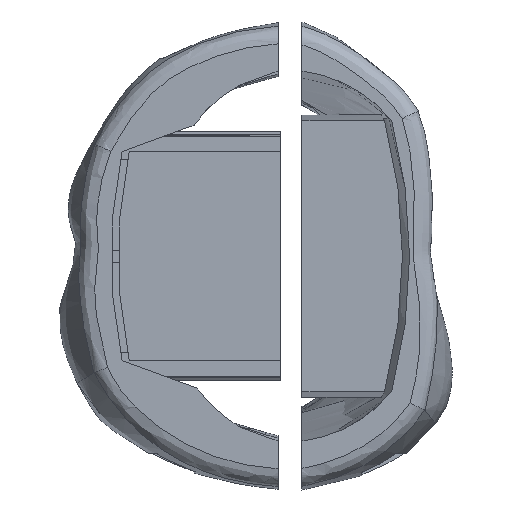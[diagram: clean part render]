
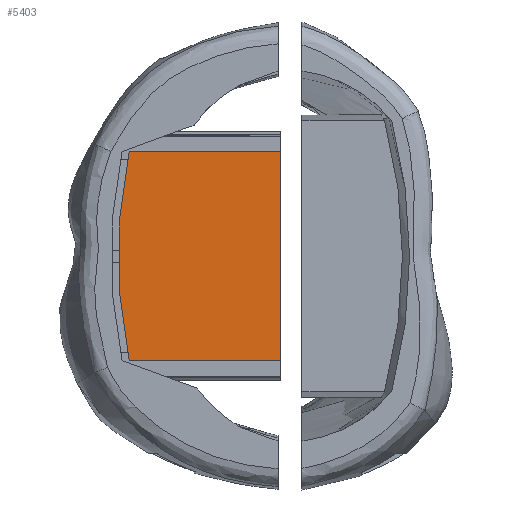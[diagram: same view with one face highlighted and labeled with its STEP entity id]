
A CAD part, left-side view. The second image highlights one B-rep face of the part: STEP entity #5403.
In plain terms, the highlighted planar face has unit normal (-1, 0, 0).
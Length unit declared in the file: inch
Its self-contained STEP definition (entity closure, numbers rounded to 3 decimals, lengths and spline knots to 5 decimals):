
#266=PLANE('',#5706);
#492=FACE_OUTER_BOUND('',#785,.T.);
#785=EDGE_LOOP('',(#4345,#4346,#4347,#4348));
#1254=CIRCLE('',#5707,4.14738);
#1511=LINE('',#14806,#1941);
#1515=LINE('',#14865,#1945);
#1517=LINE('',#14869,#1947);
#1941=VECTOR('',#6391,0.3937);
#1945=VECTOR('',#6397,0.3937);
#1947=VECTOR('',#6401,0.3937);
#2419=VERTEX_POINT('',#14803);
#2420=VERTEX_POINT('',#14805);
#2422=VERTEX_POINT('',#14863);
#2423=VERTEX_POINT('',#14867);
#3110=EDGE_CURVE('',#2420,#2419,#1511,.T.);
#3116=EDGE_CURVE('',#2420,#2422,#1515,.T.);
#3118=EDGE_CURVE('',#2419,#2423,#1517,.T.);
#3119=EDGE_CURVE('',#2423,#2422,#1254,.T.);
#4345=ORIENTED_EDGE('',*,*,#3119,.T.);
#4346=ORIENTED_EDGE('',*,*,#3116,.F.);
#4347=ORIENTED_EDGE('',*,*,#3110,.T.);
#4348=ORIENTED_EDGE('',*,*,#3118,.T.);
#5403=ADVANCED_FACE('',(#492),#266,.T.);
#5706=AXIS2_PLACEMENT_3D('',#14870,#6402,#6403);
#5707=AXIS2_PLACEMENT_3D('',#14871,#6404,#6405);
#6391=DIRECTION('',(0.,0.,1.));
#6397=DIRECTION('',(0.,1.,0.));
#6401=DIRECTION('',(0.,1.,0.));
#6402=DIRECTION('center_axis',(-1.,0.,0.));
#6403=DIRECTION('ref_axis',(0.,0.,1.));
#6404=DIRECTION('center_axis',(-1.,0.,0.));
#6405=DIRECTION('ref_axis',(0.,0.977,-0.211));
#14803=CARTESIAN_POINT('',(-6.4,-0.02,0.875));
#14805=CARTESIAN_POINT('',(-6.4,-0.02,-0.875));
#14806=CARTESIAN_POINT('',(-6.4,-0.02,-1.4875));
#14863=CARTESIAN_POINT('',(-6.4,1.245,-0.875));
#14865=CARTESIAN_POINT('',(-6.4,-0.06,-0.875));
#14867=CARTESIAN_POINT('',(-6.4,1.245,0.875));
#14869=CARTESIAN_POINT('',(-6.4,-0.06,0.875));
#14870=CARTESIAN_POINT('Origin',(-6.4,-0.06,-0.875));
#14871=CARTESIAN_POINT('Origin',(-6.4,-2.80903,0.));
